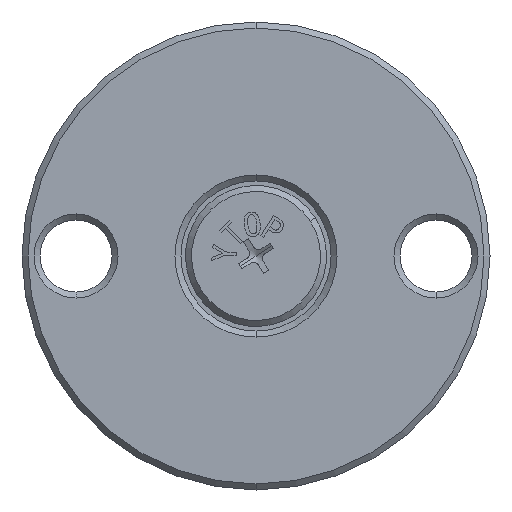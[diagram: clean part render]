
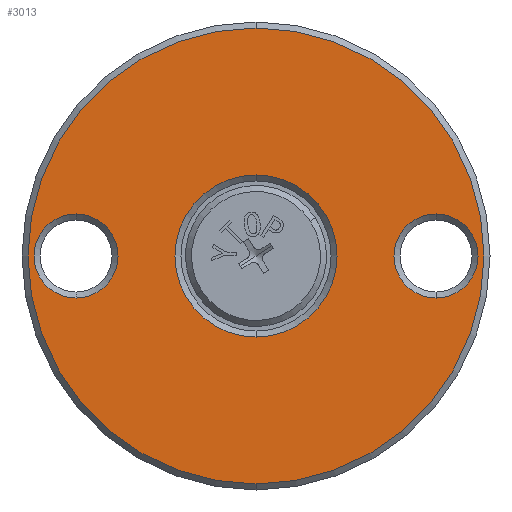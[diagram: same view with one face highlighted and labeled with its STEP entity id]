
A CAD part, front view. The second image highlights one B-rep face of the part: STEP entity #3013.
In plain terms, the highlighted planar face has unit normal (0, -1, 0).
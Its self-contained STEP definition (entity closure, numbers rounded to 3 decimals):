
#181 = CARTESIAN_POINT ( 'NONE',  ( 0., 0., 0. ) ) ;
#226 = CIRCLE ( 'NONE', #6099, 7. ) ;
#468 = DIRECTION ( 'NONE',  ( 0., 0., 1. ) ) ;
#615 = VERTEX_POINT ( 'NONE', #5557 ) ;
#859 = CIRCLE ( 'NONE', #4728, 13.5 ) ;
#919 = CARTESIAN_POINT ( 'NONE',  ( 0., 0., 0. ) ) ;
#1061 = EDGE_LOOP ( 'NONE', ( #2842, #5807 ) ) ;
#1266 = FACE_BOUND ( 'NONE', #8068, .T. ) ;
#1490 = DIRECTION ( 'NONE',  ( 0., 1., 0. ) ) ;
#1491 = CIRCLE ( 'NONE', #7681, 38. ) ;
#1790 = CARTESIAN_POINT ( 'NONE',  ( -30., 0., 0. ) ) ;
#2005 = AXIS2_PLACEMENT_3D ( 'NONE', #7448, #8044, #5411 ) ;
#2009 = VERTEX_POINT ( 'NONE', #3254 ) ;
#2115 = VERTEX_POINT ( 'NONE', #8034 ) ;
#2152 = DIRECTION ( 'NONE',  ( 0., 0., 1. ) ) ;
#2362 = DIRECTION ( 'NONE',  ( 0., 1., 0. ) ) ;
#2408 = DIRECTION ( 'NONE',  ( 0., 1., 0. ) ) ;
#2430 = AXIS2_PLACEMENT_3D ( 'NONE', #8349, #2362, #3025 ) ;
#2688 = DIRECTION ( 'NONE',  ( 0., 0., 1. ) ) ;
#2842 = ORIENTED_EDGE ( 'NONE', *, *, #2871, .T. ) ;
#2871 = EDGE_CURVE ( 'NONE', #4495, #2115, #1491, .T. ) ;
#2999 = CARTESIAN_POINT ( 'NONE',  ( 39., 0., 0. ) ) ;
#3013 = ADVANCED_FACE ( 'NONE', ( #4457, #6994, #8129, #1266 ), #3638, .F. ) ;
#3025 = DIRECTION ( 'NONE',  ( 0., 0., 1. ) ) ;
#3254 = CARTESIAN_POINT ( 'NONE',  ( 0., 0., -13.5 ) ) ;
#3324 = DIRECTION ( 'NONE',  ( 0., -1., 0. ) ) ;
#3368 = VERTEX_POINT ( 'NONE', #5794 ) ;
#3638 = PLANE ( 'NONE',  #6223 ) ;
#3767 = DIRECTION ( 'NONE',  ( 0., 1., 0. ) ) ;
#3980 = EDGE_CURVE ( 'NONE', #2009, #3368, #859, .T. ) ;
#4024 = EDGE_CURVE ( 'NONE', #2115, #4495, #6694, .T. ) ;
#4298 = ORIENTED_EDGE ( 'NONE', *, *, #7517, .T. ) ;
#4437 = CARTESIAN_POINT ( 'NONE',  ( -30., 0., -7. ) ) ;
#4457 = FACE_BOUND ( 'NONE', #6975, .T. ) ;
#4464 = CARTESIAN_POINT ( 'NONE',  ( 0., 0., 0. ) ) ;
#4495 = VERTEX_POINT ( 'NONE', #5563 ) ;
#4618 = CARTESIAN_POINT ( 'NONE',  ( 0., 0., 0. ) ) ;
#4725 = VERTEX_POINT ( 'NONE', #6808 ) ;
#4728 = AXIS2_PLACEMENT_3D ( 'NONE', #181, #1490, #2152 ) ;
#4902 = EDGE_CURVE ( 'NONE', #3368, #2009, #6476, .T. ) ;
#5080 = AXIS2_PLACEMENT_3D ( 'NONE', #4464, #6381, #8413 ) ;
#5336 = CIRCLE ( 'NONE', #2005, 7. ) ;
#5411 = DIRECTION ( 'NONE',  ( 0., 0., 1. ) ) ;
#5417 = ORIENTED_EDGE ( 'NONE', *, *, #7558, .T. ) ;
#5557 = CARTESIAN_POINT ( 'NONE',  ( 30., 0., -7. ) ) ;
#5563 = CARTESIAN_POINT ( 'NONE',  ( 0., 0., 38. ) ) ;
#5603 = VERTEX_POINT ( 'NONE', #4437 ) ;
#5794 = CARTESIAN_POINT ( 'NONE',  ( 0., 0., 13.5 ) ) ;
#5807 = ORIENTED_EDGE ( 'NONE', *, *, #4024, .T. ) ;
#6099 = AXIS2_PLACEMENT_3D ( 'NONE', #6931, #3767, #468 ) ;
#6161 = ORIENTED_EDGE ( 'NONE', *, *, #8057, .T. ) ;
#6223 = AXIS2_PLACEMENT_3D ( 'NONE', #2999, #7552, #7472 ) ;
#6342 = DIRECTION ( 'NONE',  ( 0., 0., 1. ) ) ;
#6381 = DIRECTION ( 'NONE',  ( 0., 1., 0. ) ) ;
#6476 = CIRCLE ( 'NONE', #5080, 13.5 ) ;
#6694 = CIRCLE ( 'NONE', #8354, 38. ) ;
#6724 = ORIENTED_EDGE ( 'NONE', *, *, #4902, .T. ) ;
#6808 = CARTESIAN_POINT ( 'NONE',  ( 30., 0., 7. ) ) ;
#6851 = CIRCLE ( 'NONE', #7079, 7. ) ;
#6904 = DIRECTION ( 'NONE',  ( 0., -1., 0. ) ) ;
#6931 = CARTESIAN_POINT ( 'NONE',  ( 30., 0., 0. ) ) ;
#6975 = EDGE_LOOP ( 'NONE', ( #4298, #5417 ) ) ;
#6994 = FACE_BOUND ( 'NONE', #7976, .T. ) ;
#7054 = CIRCLE ( 'NONE', #2430, 7. ) ;
#7079 = AXIS2_PLACEMENT_3D ( 'NONE', #1790, #2408, #6342 ) ;
#7448 = CARTESIAN_POINT ( 'NONE',  ( -30., 0., 0. ) ) ;
#7450 = DIRECTION ( 'NONE',  ( 0., 0., 1. ) ) ;
#7472 = DIRECTION ( 'NONE',  ( 0., 0., 1. ) ) ;
#7514 = ORIENTED_EDGE ( 'NONE', *, *, #8385, .T. ) ;
#7517 = EDGE_CURVE ( 'NONE', #615, #4725, #226, .T. ) ;
#7552 = DIRECTION ( 'NONE',  ( 0., 1., 0. ) ) ;
#7558 = EDGE_CURVE ( 'NONE', #4725, #615, #7054, .T. ) ;
#7681 = AXIS2_PLACEMENT_3D ( 'NONE', #4618, #3324, #2688 ) ;
#7976 = EDGE_LOOP ( 'NONE', ( #6161, #7514 ) ) ;
#8011 = CARTESIAN_POINT ( 'NONE',  ( -30., 0., 7. ) ) ;
#8034 = CARTESIAN_POINT ( 'NONE',  ( 0., 0., -38. ) ) ;
#8044 = DIRECTION ( 'NONE',  ( 0., 1., 0. ) ) ;
#8057 = EDGE_CURVE ( 'NONE', #5603, #8143, #5336, .T. ) ;
#8068 = EDGE_LOOP ( 'NONE', ( #8350, #6724 ) ) ;
#8129 = FACE_OUTER_BOUND ( 'NONE', #1061, .T. ) ;
#8143 = VERTEX_POINT ( 'NONE', #8011 ) ;
#8349 = CARTESIAN_POINT ( 'NONE',  ( 30., 0., 0. ) ) ;
#8350 = ORIENTED_EDGE ( 'NONE', *, *, #3980, .T. ) ;
#8354 = AXIS2_PLACEMENT_3D ( 'NONE', #919, #6904, #7450 ) ;
#8385 = EDGE_CURVE ( 'NONE', #8143, #5603, #6851, .T. ) ;
#8413 = DIRECTION ( 'NONE',  ( 0., 0., 1. ) ) ;
